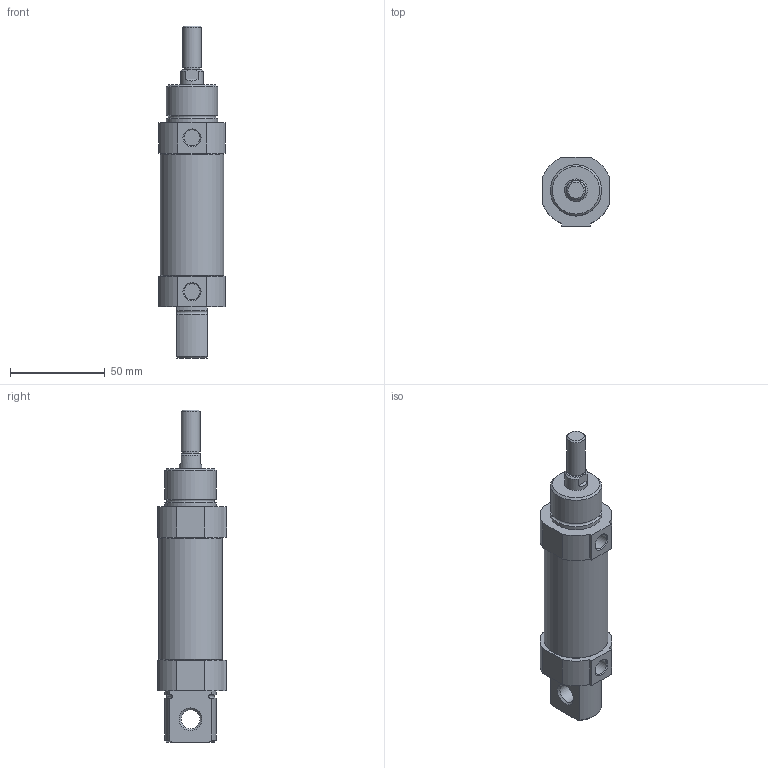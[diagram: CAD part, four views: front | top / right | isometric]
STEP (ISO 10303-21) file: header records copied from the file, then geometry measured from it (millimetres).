
FILE_DESCRIPTION((''),'2;1');
FILE_NAME('I:\3D電子目錄\氣缸\SDA\SDA32\SDA32\SDA32x25.stp','2007-08-06T10:36:22',('Administrator'),(''),'Autodesk Inventor 2008','Autodesk Inventor 2008','');
FILE_SCHEMA(('AUTOMOTIVE_DESIGN { 1 0 10303 214 1 1 1 1 }'));
Length unit declared in the file: millimetre
Products named in the file (1): SDA32X25
Bounding box: 35 x 36.5 x 175 mm (x, y, z)
Volume: 115090.1 mm3; surface area: 19179.3 mm2
Topology: 1 solids, 1 shells, 65 faces, 152 edges, 98 vertices
Faces by surface type: plane 27, cylinder 21, cone 12, torus 3, bspline 2
Full cylindrical faces by diameter (mm): 8.5 x2, 8.6 x1, 10 x2, 12 x1, 27 x2, 33.6 x1
Entity records: 1946 total; most frequent: CARTESIAN_POINT 486, DIRECTION 306, ORIENTED_EDGE 266, EDGE_CURVE 133, AXIS2_PLACEMENT_3D 121, VERTEX_POINT 97, EDGE_LOOP 94, FACE_OUTER_BOUND 65
